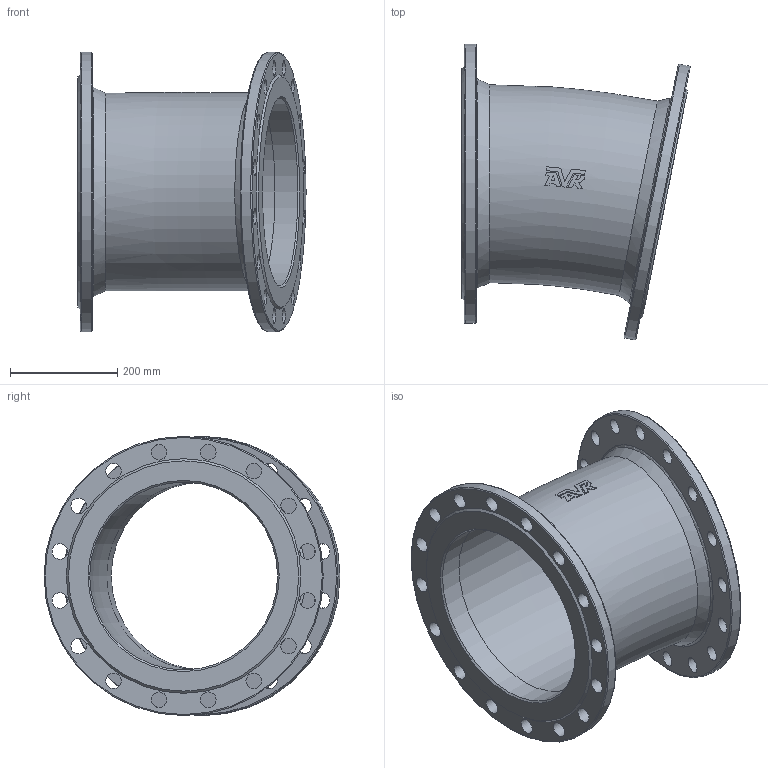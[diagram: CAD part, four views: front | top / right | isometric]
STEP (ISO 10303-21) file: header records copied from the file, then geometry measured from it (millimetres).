
FILE_DESCRIPTION (( 'STEP AP203' ), '1' );
FILE_NAME ('O_712_0110_DN350_1X_REV01.step', '2024-08-15T09:06:41', ( '' ), ( '' ), 'SwSTEP 2.0', 'SolidWorks 2022', '' );
FILE_SCHEMA (( 'CONFIG_CONTROL_DESIGN' ));
Length unit declared in the file: millimetre
Products named in the file (1): O_712_0110_DN350_1X_REV01
Bounding box: 424.76 x 551.12 x 520 mm (x, y, z)
Volume: 9006039.6 mm3; surface area: 1313790.5 mm2
Topology: 1 solids, 1 shells, 97 faces, 287 edges, 200 vertices
Faces by surface type: plane 41, cylinder 38, torus 12, cone 6
Full cylindrical faces by diameter (mm): 29 x32, 350 x2, 520 x2
Entity records: 3438 total; most frequent: CARTESIAN_POINT 1137, DIRECTION 405, ORIENTED_EDGE 398, EDGE_LOOP 221, EDGE_CURVE 199, AXIS2_PLACEMENT_3D 184, VERTEX_POINT 162, FACE_OUTER_BOUND 141
